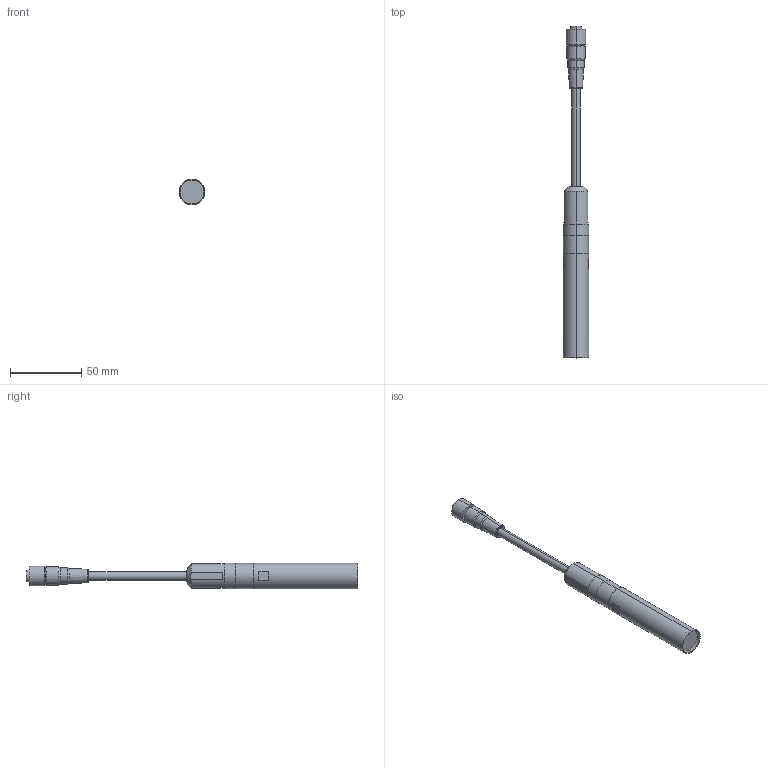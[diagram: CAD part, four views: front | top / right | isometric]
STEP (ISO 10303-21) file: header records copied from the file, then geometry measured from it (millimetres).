
FILE_DESCRIPTION (( 'STEP AP203' ), '1' );
FILE_NAME ('SA-80T_solid model.STEP', '2023-11-21T07:05:12', ( '' ), ( '' ), 'SwSTEP 2.0', 'SolidWorks 2022', '' );
FILE_SCHEMA (( 'CONFIG_CONTROL_DESIGN' ));
Length unit declared in the file: millimetre
Products named in the file (1): SA-80T_solid model
Bounding box: 18 x 233 x 18 mm (x, y, z)
Volume: 35652.4 mm3; surface area: 10727 mm2
Topology: 1 solids, 1 shells, 66 faces, 134 edges, 84 vertices
Faces by surface type: cylinder 28, plane 24, cone 12, torus 2
Entity records: 1837 total; most frequent: DIRECTION 344, CARTESIAN_POINT 301, ORIENTED_EDGE 268, AXIS2_PLACEMENT_3D 145, EDGE_CURVE 134, VERTEX_POINT 84, EDGE_LOOP 80, CIRCLE 78
